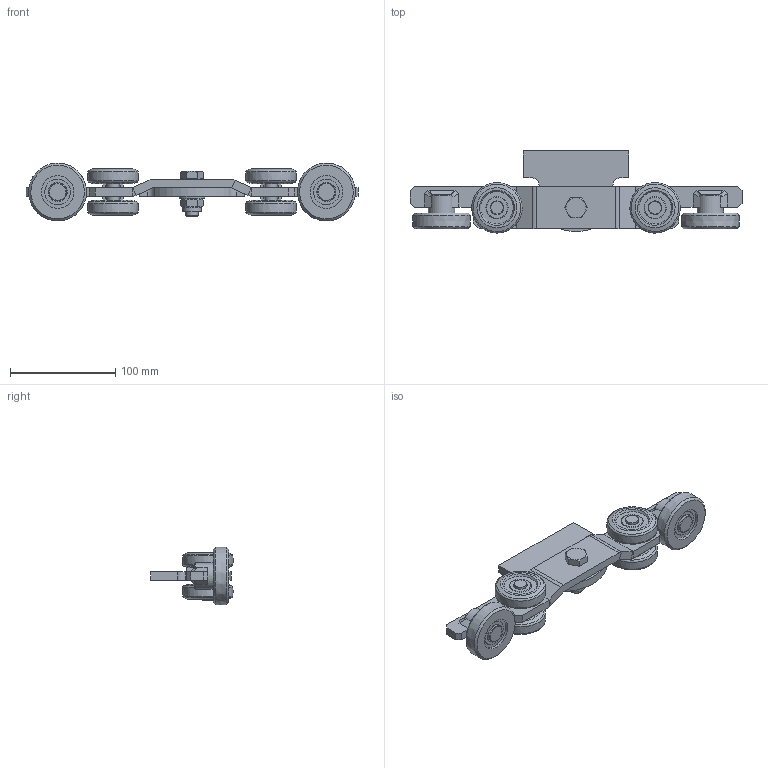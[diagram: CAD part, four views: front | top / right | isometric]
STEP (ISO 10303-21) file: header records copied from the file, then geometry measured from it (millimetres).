
FILE_DESCRIPTION(/* description */ ('Brennteil'),/* implementation_level */ '2;1');
FILE_NAME(/* name */ 'Q:\sge-ma\Produktmanagement-STB\STB\Workspace\stp\010337934.stp',/* time_stamp */ '2016-07-14T15:56:15+02:00',/* author */ ('avschreier'),/* organization */ (''),/* preprocessor_version */ 'ST-DEVELOPER v16.1',/* originating_system */ 'Autodesk Inventor 2016',/* authorisation */ '');
FILE_SCHEMA (('AUTOMOTIVE_DESIGN { 1 0 10303 214 3 1 1 }'));
Length unit declared in the file: millimetre
Products named in the file (15): 000302074; 336300022_Schweißnähte; 000301991; 337000283; DIN_625-6203_ZZ_en; 000302016; 000302014; 336300022; DIN_EN_ISO_7040-M12_en; DIN_EN_ISO_4017-M12x35_en; DIN_EN_ISO_7090-13_en; 336290030; 000303237; 000304012; 010337934
Assembly tree (23 placements, depth 4):
  010337934
    000302074
    336300022
      336300022_Schweißnähte
      000301991
      000302016  x2
        337000283
        DIN_625-6203_ZZ_en
      000302014  x2
    DIN_EN_ISO_7040-M12_en
    DIN_EN_ISO_4017-M12x35_en
    DIN_EN_ISO_7090-13_en
    336290030  x4
    000303237  x4
    000304012  x2
Bounding box: 315 x 77.99 x 54.78 mm (x, y, z)
Volume: 295967.7 mm3; surface area: 113743.9 mm2
Topology: 25 solids, 27 shells, 537 faces, 1315 edges, 836 vertices
Faces by surface type: plane 271, cylinder 84, cone 70, bspline 54, torus 44, sphere 14
Full cylindrical faces by diameter (mm): 10.106 x1, 11.053 x1, 12 x7, 12.1 x1, 12.3 x1, 13 x1, 14 x2, 16.9 x2, 17 x2, 17.2 x1, 17.4 x1, 24 x1, 24.36 x8, 25 x2, 31 x2, 32.64 x8, 40 x4
Entity records: 10913 total; most frequent: CARTESIAN_POINT 4101, DIRECTION 1310, ORIENTED_EDGE 1294, EDGE_CURVE 647, AXIS2_PLACEMENT_3D 512, VERTEX_POINT 439, EDGE_LOOP 396, ADVANCED_FACE 301
